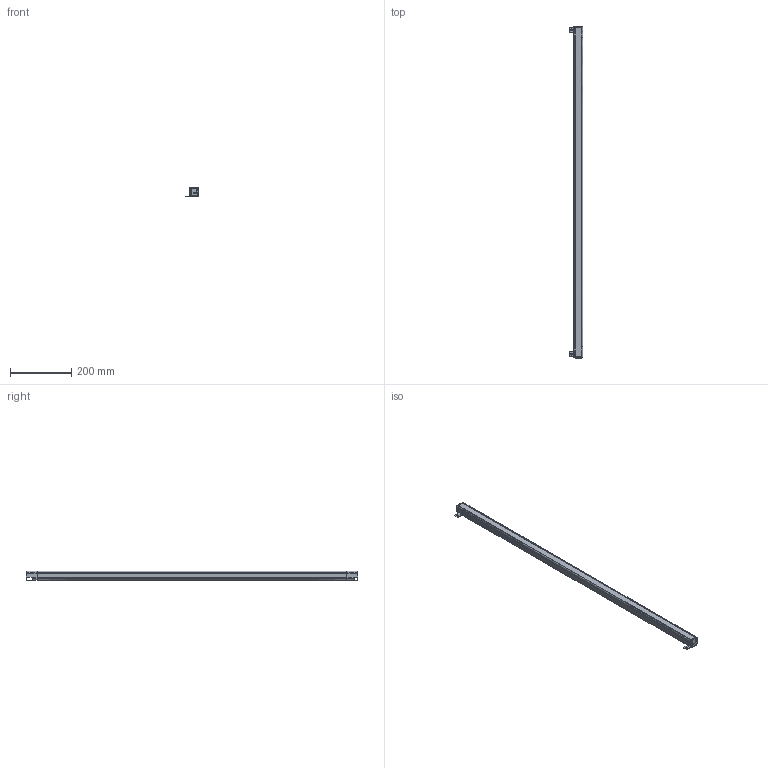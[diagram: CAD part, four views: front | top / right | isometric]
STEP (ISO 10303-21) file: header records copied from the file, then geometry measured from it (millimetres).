
FILE_DESCRIPTION(/* description */ (''),/* implementation_level */ '2;1');
FILE_NAME(/* name */ '5420.stp',/* time_stamp */ '2020-05-26T15:18:06+08:00',/* author */ (''),/* organization */ (''),/* preprocessor_version */ 'ST-DEVELOPER v16',/* originating_system */ 'SIEMENS PLM Software NX 10.0',/* authorisation */ '');
FILE_SCHEMA (('AP203_CONFIGURATION_CONTROLLED_3D_DESIGN_OF_MECHANICAL_PARTS_AND_ASSEMBLIES_MIM_LF { 1 0 10303 403 2 1 2}'));
Length unit declared in the file: millimetre
Products named in the file (1): Admi184CCD9Epm8e
Bounding box: 44.89 x 1088.4 x 31.39 mm (x, y, z)
Volume: 336787.5 mm3; surface area: 358177.3 mm2
Topology: 6 solids, 6 shells, 441 faces, 1311 edges, 871 vertices
Faces by surface type: plane 256, cylinder 132, cone 32, bspline 14, extrusion 7
Full cylindrical faces by diameter (mm): 1.5 x2, 3.2 x8, 3.5 x8
Entity records: 15651 total; most frequent: CARTESIAN_POINT 3844, ORIENTED_EDGE 2528, DIRECTION 2314, EDGE_CURVE 1264, VECTOR 856, VERTEX_POINT 855, LINE 849, AXIS2_PLACEMENT_3D 729
